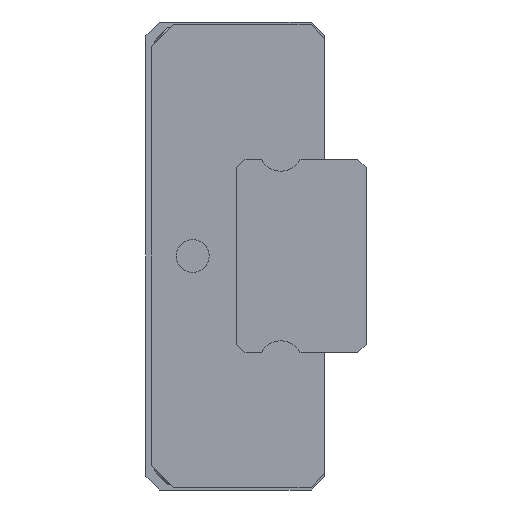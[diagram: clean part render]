
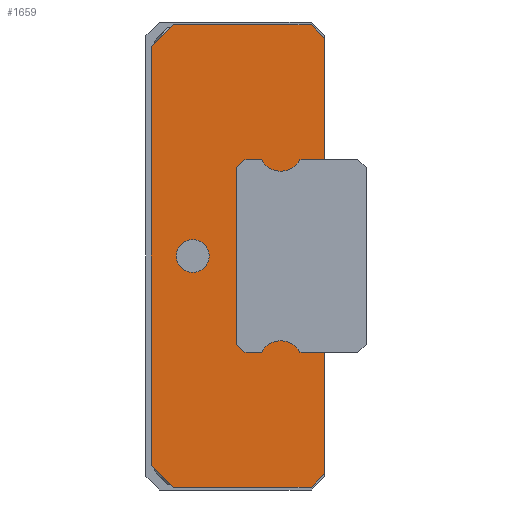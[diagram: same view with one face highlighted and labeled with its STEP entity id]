
A CAD part, left-side view. The second image highlights one B-rep face of the part: STEP entity #1659.
In plain terms, the highlighted planar face has unit normal (-1, 0, 0).
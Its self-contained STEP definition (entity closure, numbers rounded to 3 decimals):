
#55=CIRCLE('',#1797,0.6);
#56=CIRCLE('',#1798,0.79);
#57=CIRCLE('',#1799,0.79);
#295=ORIENTED_EDGE('',*,*,#675,.T.);
#296=ORIENTED_EDGE('',*,*,#676,.T.);
#297=ORIENTED_EDGE('',*,*,#647,.F.);
#298=ORIENTED_EDGE('',*,*,#677,.F.);
#299=ORIENTED_EDGE('',*,*,#678,.F.);
#300=ORIENTED_EDGE('',*,*,#679,.F.);
#301=ORIENTED_EDGE('',*,*,#680,.F.);
#302=ORIENTED_EDGE('',*,*,#681,.F.);
#303=ORIENTED_EDGE('',*,*,#682,.F.);
#304=ORIENTED_EDGE('',*,*,#683,.F.);
#305=ORIENTED_EDGE('',*,*,#649,.F.);
#306=ORIENTED_EDGE('',*,*,#684,.F.);
#307=ORIENTED_EDGE('',*,*,#685,.F.);
#308=ORIENTED_EDGE('',*,*,#686,.T.);
#309=ORIENTED_EDGE('',*,*,#687,.T.);
#310=ORIENTED_EDGE('',*,*,#688,.T.);
#311=ORIENTED_EDGE('',*,*,#689,.T.);
#312=ORIENTED_EDGE('',*,*,#690,.T.);
#313=ORIENTED_EDGE('',*,*,#691,.F.);
#647=EDGE_CURVE('',#845,#839,#1017,.T.);
#649=EDGE_CURVE('',#846,#848,#1019,.T.);
#675=EDGE_CURVE('',#869,#869,#55,.T.);
#676=EDGE_CURVE('',#870,#839,#1042,.T.);
#677=EDGE_CURVE('',#871,#845,#1043,.T.);
#678=EDGE_CURVE('',#872,#871,#1044,.T.);
#679=EDGE_CURVE('',#873,#872,#1045,.T.);
#680=EDGE_CURVE('',#874,#873,#1046,.T.);
#681=EDGE_CURVE('',#875,#874,#1047,.T.);
#682=EDGE_CURVE('',#876,#875,#1048,.T.);
#683=EDGE_CURVE('',#848,#876,#1049,.T.);
#684=EDGE_CURVE('',#877,#846,#1050,.T.);
#685=EDGE_CURVE('',#878,#877,#56,.T.);
#686=EDGE_CURVE('',#878,#879,#1051,.T.);
#687=EDGE_CURVE('',#879,#880,#1052,.T.);
#688=EDGE_CURVE('',#880,#881,#1053,.T.);
#689=EDGE_CURVE('',#881,#882,#1054,.T.);
#690=EDGE_CURVE('',#882,#883,#1055,.T.);
#691=EDGE_CURVE('',#870,#883,#57,.T.);
#839=VERTEX_POINT('',#2531);
#845=VERTEX_POINT('',#2545);
#846=VERTEX_POINT('',#2549);
#848=VERTEX_POINT('',#2552);
#869=VERTEX_POINT('',#2601);
#870=VERTEX_POINT('',#2603);
#871=VERTEX_POINT('',#2605);
#872=VERTEX_POINT('',#2607);
#873=VERTEX_POINT('',#2609);
#874=VERTEX_POINT('',#2611);
#875=VERTEX_POINT('',#2613);
#876=VERTEX_POINT('',#2615);
#877=VERTEX_POINT('',#2618);
#878=VERTEX_POINT('',#2620);
#879=VERTEX_POINT('',#2622);
#880=VERTEX_POINT('',#2624);
#881=VERTEX_POINT('',#2626);
#882=VERTEX_POINT('',#2628);
#883=VERTEX_POINT('',#2630);
#1017=LINE('',#2546,#1213);
#1019=LINE('',#2551,#1215);
#1042=LINE('',#2602,#1238);
#1043=LINE('',#2604,#1239);
#1044=LINE('',#2606,#1240);
#1045=LINE('',#2608,#1241);
#1046=LINE('',#2610,#1242);
#1047=LINE('',#2612,#1243);
#1048=LINE('',#2614,#1244);
#1049=LINE('',#2616,#1245);
#1050=LINE('',#2617,#1246);
#1051=LINE('',#2621,#1247);
#1052=LINE('',#2623,#1248);
#1053=LINE('',#2625,#1249);
#1054=LINE('',#2627,#1250);
#1055=LINE('',#2629,#1251);
#1213=VECTOR('',#2072,1000.);
#1215=VECTOR('',#2076,1000.);
#1238=VECTOR('',#2111,1000.);
#1239=VECTOR('',#2112,1000.);
#1240=VECTOR('',#2113,1000.);
#1241=VECTOR('',#2114,1000.);
#1242=VECTOR('',#2115,1000.);
#1243=VECTOR('',#2116,1000.);
#1244=VECTOR('',#2117,1000.);
#1245=VECTOR('',#2118,1000.);
#1246=VECTOR('',#2119,1000.);
#1247=VECTOR('',#2122,1000.);
#1248=VECTOR('',#2123,1000.);
#1249=VECTOR('',#2124,1000.);
#1250=VECTOR('',#2125,1000.);
#1251=VECTOR('',#2126,1000.);
#1368=EDGE_LOOP('',(#295));
#1369=EDGE_LOOP('',(#296,#297,#298,#299,#300,#301,#302,#303,#304,#305,#306,
#307,#308,#309,#310,#311,#312,#313));
#1484=FACE_BOUND('',#1368,.T.);
#1485=FACE_BOUND('',#1369,.T.);
#1578=PLANE('',#1796);
#1659=ADVANCED_FACE('',(#1484,#1485),#1578,.F.);
#1796=AXIS2_PLACEMENT_3D('',#2599,#2107,#2108);
#1797=AXIS2_PLACEMENT_3D('',#2600,#2109,#2110);
#1798=AXIS2_PLACEMENT_3D('',#2619,#2120,#2121);
#1799=AXIS2_PLACEMENT_3D('',#2631,#2127,#2128);
#2072=DIRECTION('',(0.,0.,-1.));
#2076=DIRECTION('',(0.,0.,-1.));
#2107=DIRECTION('',(1.,0.,0.));
#2108=DIRECTION('',(0.,0.,-1.));
#2109=DIRECTION('',(1.,0.,0.));
#2110=DIRECTION('',(0.,0.,-1.));
#2111=DIRECTION('',(0.,-1.,0.));
#2112=DIRECTION('',(0.,-0.707,-0.707));
#2113=DIRECTION('',(0.,-1.,0.));
#2114=DIRECTION('',(0.,-0.707,0.707));
#2115=DIRECTION('',(0.,0.,1.));
#2116=DIRECTION('',(0.,0.707,0.707));
#2117=DIRECTION('',(0.,1.,0.));
#2118=DIRECTION('',(0.,0.707,-0.707));
#2119=DIRECTION('',(0.,-1.,0.));
#2120=DIRECTION('',(1.,0.,0.));
#2121=DIRECTION('',(0.,0.,-1.));
#2122=DIRECTION('',(0.,1.,0.));
#2123=DIRECTION('',(0.,0.707,0.707));
#2124=DIRECTION('',(0.,0.,1.));
#2125=DIRECTION('',(0.,-0.707,0.707));
#2126=DIRECTION('',(0.,-1.,0.));
#2127=DIRECTION('',(1.,0.,0.));
#2128=DIRECTION('',(0.,0.,-1.));
#2531=CARTESIAN_POINT('',(-9.5,0.,3.5));
#2545=CARTESIAN_POINT('',(-9.5,0.,7.9));
#2546=CARTESIAN_POINT('',(-9.5,0.,7.9));
#2549=CARTESIAN_POINT('',(-9.5,0.,-3.5));
#2551=CARTESIAN_POINT('',(-9.5,0.,7.9));
#2552=CARTESIAN_POINT('',(-9.5,0.,-7.9));
#2599=CARTESIAN_POINT('',(-9.5,0.,0.));
#2600=CARTESIAN_POINT('',(-9.5,4.8,0.));
#2601=CARTESIAN_POINT('',(-9.5,4.8,-0.6));
#2602=CARTESIAN_POINT('',(-9.5,0.902,3.5));
#2603=CARTESIAN_POINT('',(-9.5,0.902,3.5));
#2604=CARTESIAN_POINT('',(-9.5,0.5,8.4));
#2605=CARTESIAN_POINT('',(-9.5,0.5,8.4));
#2606=CARTESIAN_POINT('',(-9.5,5.5,8.4));
#2607=CARTESIAN_POINT('',(-9.5,5.5,8.4));
#2608=CARTESIAN_POINT('',(-9.5,6.3,7.6));
#2609=CARTESIAN_POINT('',(-9.5,6.3,7.6));
#2610=CARTESIAN_POINT('',(-9.5,6.3,-7.6));
#2611=CARTESIAN_POINT('',(-9.5,6.3,-7.6));
#2612=CARTESIAN_POINT('',(-9.5,5.5,-8.4));
#2613=CARTESIAN_POINT('',(-9.5,5.5,-8.4));
#2614=CARTESIAN_POINT('',(-9.5,0.5,-8.4));
#2615=CARTESIAN_POINT('',(-9.5,0.5,-8.4));
#2616=CARTESIAN_POINT('',(-9.5,0.,-7.9));
#2617=CARTESIAN_POINT('',(-9.5,0.,-3.5));
#2618=CARTESIAN_POINT('',(-9.5,0.902,-3.5));
#2619=CARTESIAN_POINT('',(-9.5,1.6,-3.87));
#2620=CARTESIAN_POINT('',(-9.5,2.298,-3.5));
#2621=CARTESIAN_POINT('',(-9.5,2.298,-3.5));
#2622=CARTESIAN_POINT('',(-9.5,2.9,-3.5));
#2623=CARTESIAN_POINT('',(-9.5,2.9,-3.5));
#2624=CARTESIAN_POINT('',(-9.5,3.2,-3.2));
#2625=CARTESIAN_POINT('',(-9.5,3.2,-3.2));
#2626=CARTESIAN_POINT('',(-9.5,3.2,3.2));
#2627=CARTESIAN_POINT('',(-9.5,3.2,3.2));
#2628=CARTESIAN_POINT('',(-9.5,2.9,3.5));
#2629=CARTESIAN_POINT('',(-9.5,2.9,3.5));
#2630=CARTESIAN_POINT('',(-9.5,2.298,3.5));
#2631=CARTESIAN_POINT('',(-9.5,1.6,3.87));
